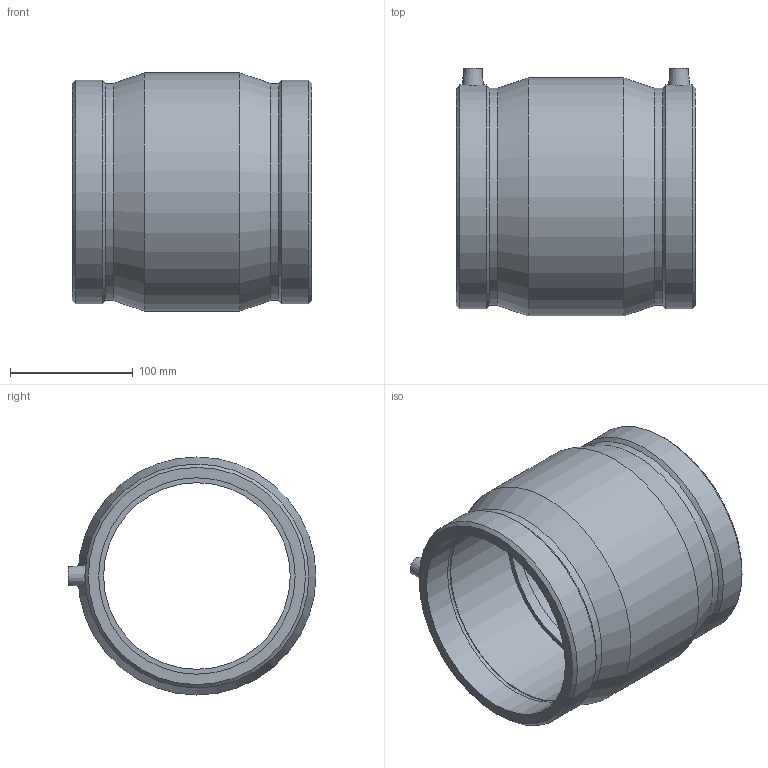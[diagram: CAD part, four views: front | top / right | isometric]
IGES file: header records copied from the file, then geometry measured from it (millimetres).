
Global section: file name: 490104160N.ipt; native system: Autodesk Inventor 2015; preprocessor: unknown; author: KIM; date: 20171106.093551; units: millimetre
Bounding box: 195 x 202 x 194 mm (x, y, z)
Volume: 1476745.5 mm3; surface area: 232920.9 mm2
Topology: 1 solids, 1 shells, 36 faces, 80 edges, 54 vertices
Faces by surface type: plane 12, revolution 9, cone 8, cylinder 7
Full cylindrical faces by diameter (mm): 4 x2, 176.889 x2, 182.36 x2, 194 x1
